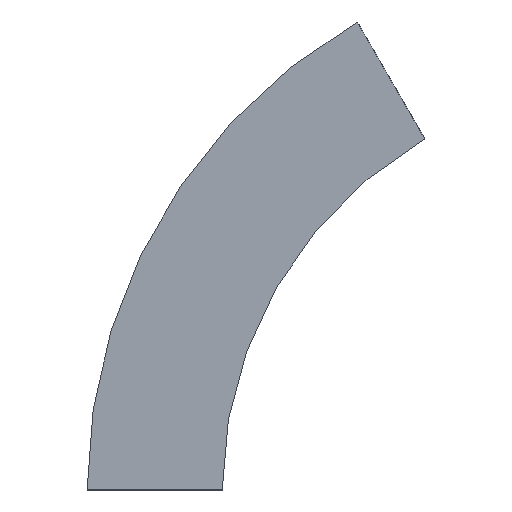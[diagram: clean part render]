
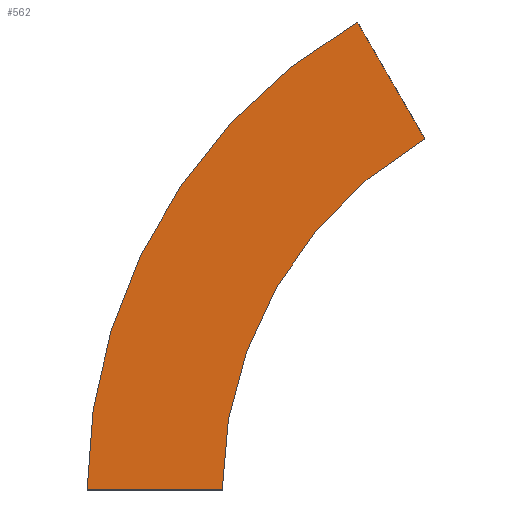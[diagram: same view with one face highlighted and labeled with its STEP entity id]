
A CAD part, left-side view. The second image highlights one B-rep face of the part: STEP entity #562.
In plain terms, the highlighted planar face has unit normal (-1, 0, 0) as drawn and (1, 0, 0) by its records, which use the part's own axes.
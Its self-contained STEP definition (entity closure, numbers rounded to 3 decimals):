
#5 = FACE_OUTER_BOUND ( 'NONE', #439, .T. ) ;
#31 = AXIS2_PLACEMENT_3D ( 'NONE', #123, #183, #174 ) ;
#42 = VECTOR ( 'NONE', #198, 1000. ) ;
#51 = CARTESIAN_POINT ( 'NONE',  ( 0., 0., 0. ) ) ;
#81 = DIRECTION ( 'NONE',  ( 0., 1., 0. ) ) ;
#123 = CARTESIAN_POINT ( 'NONE',  ( 0., -300., 0. ) ) ;
#153 = VERTEX_POINT ( 'NONE', #51 ) ;
#165 = VECTOR ( 'NONE', #412, 1000. ) ;
#174 = DIRECTION ( 'NONE',  ( 0., 1., 0. ) ) ;
#179 = VERTEX_POINT ( 'NONE', #460 ) ;
#180 = EDGE_CURVE ( 'NONE', #179, #339, #242, .T. ) ;
#183 = DIRECTION ( 'NONE',  ( 1., 0., 0. ) ) ;
#189 = CARTESIAN_POINT ( 'NONE',  ( 0., 0., 0. ) ) ;
#194 = CARTESIAN_POINT ( 'NONE',  ( 0., 0., 0. ) ) ;
#198 = DIRECTION ( 'NONE',  ( 0., 1., 0. ) ) ;
#209 = CIRCLE ( 'NONE', #365, 400. ) ;
#223 = ORIENTED_EDGE ( 'NONE', *, *, #292, .F. ) ;
#227 = CARTESIAN_POINT ( 'NONE',  ( 0., -300., 0. ) ) ;
#242 = LINE ( 'NONE', #333, #165 ) ;
#255 = AXIS2_PLACEMENT_3D ( 'NONE', #194, #450, #530 ) ;
#277 = CARTESIAN_POINT ( 'NONE',  ( 0., -100., 346.41 ) ) ;
#282 = LINE ( 'NONE', #189, #42 ) ;
#292 = EDGE_CURVE ( 'NONE', #153, #179, #458, .T. ) ;
#308 = ORIENTED_EDGE ( 'NONE', *, *, #379, .T. ) ;
#316 = VERTEX_POINT ( 'NONE', #438 ) ;
#333 = CARTESIAN_POINT ( 'NONE',  ( 0., -150., 259.808 ) ) ;
#339 = VERTEX_POINT ( 'NONE', #277 ) ;
#365 = AXIS2_PLACEMENT_3D ( 'NONE', #227, #437, #81 ) ;
#379 = EDGE_CURVE ( 'NONE', #153, #316, #282, .T. ) ;
#412 = DIRECTION ( 'NONE',  ( 0., 0.5, 0.866 ) ) ;
#437 = DIRECTION ( 'NONE',  ( 1., 0., 0. ) ) ;
#438 = CARTESIAN_POINT ( 'NONE',  ( 0., 100., 0. ) ) ;
#439 = EDGE_LOOP ( 'NONE', ( #555, #499, #223, #308 ) ) ;
#450 = DIRECTION ( 'NONE',  ( 1., 0., 0. ) ) ;
#454 = EDGE_CURVE ( 'NONE', #316, #339, #209, .T. ) ;
#458 = CIRCLE ( 'NONE', #31, 300. ) ;
#460 = CARTESIAN_POINT ( 'NONE',  ( 0., -150., 259.808 ) ) ;
#497 = PLANE ( 'NONE',  #255 ) ;
#499 = ORIENTED_EDGE ( 'NONE', *, *, #180, .F. ) ;
#530 = DIRECTION ( 'NONE',  ( 0., 0., -1. ) ) ;
#555 = ORIENTED_EDGE ( 'NONE', *, *, #454, .T. ) ;
#562 = ADVANCED_FACE ( 'NONE', ( #5 ), #497, .T. ) ;
